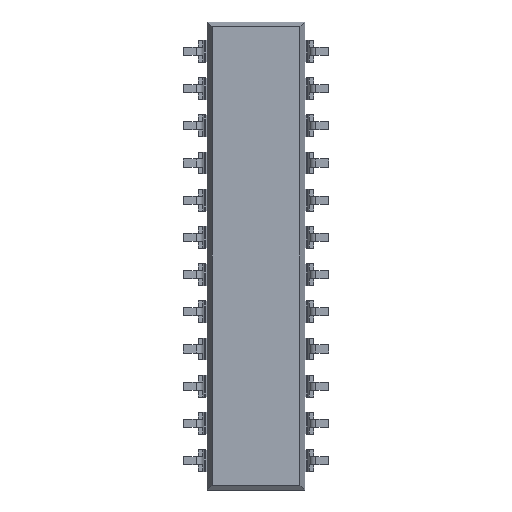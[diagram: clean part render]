
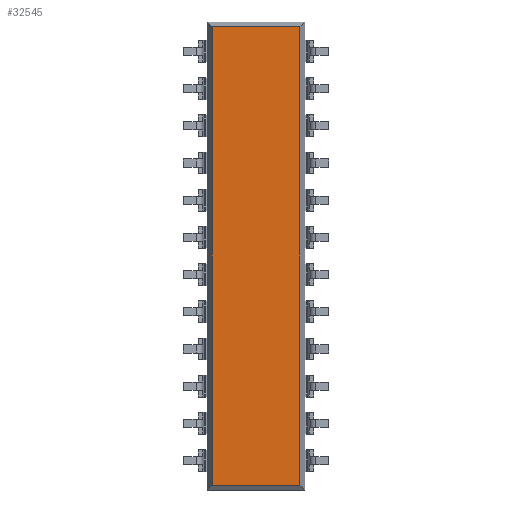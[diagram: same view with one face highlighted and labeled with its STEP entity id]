
A CAD part, front view. The second image highlights one B-rep face of the part: STEP entity #32545.
In plain terms, the highlighted planar face has unit normal (0, -1, 0).
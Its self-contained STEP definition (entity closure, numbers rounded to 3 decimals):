
#92 = LINE ( 'NONE', #15433, #35577 ) ;
#472 = FACE_OUTER_BOUND ( 'NONE', #19128, .T. ) ;
#504 = ORIENTED_EDGE ( 'NONE', *, *, #36430, .T. ) ;
#895 = AXIS2_PLACEMENT_3D ( 'NONE', #31180, #46540, #12022 ) ;
#1173 = EDGE_CURVE ( 'NONE', #20905, #13950, #92, .T. ) ;
#6952 = CARTESIAN_POINT ( 'NONE',  ( -2.997, 0., 31.96 ) ) ;
#10031 = DIRECTION ( 'NONE',  ( 0., 0., -1. ) ) ;
#11311 = VECTOR ( 'NONE', #46361, 1000. ) ;
#12022 = DIRECTION ( 'NONE',  ( 0., 0., 1. ) ) ;
#12588 = CARTESIAN_POINT ( 'NONE',  ( 2.997, 0., 31.632 ) ) ;
#13950 = VERTEX_POINT ( 'NONE', #34458 ) ;
#15346 = EDGE_CURVE ( 'NONE', #27081, #47905, #15638, .T. ) ;
#15433 = CARTESIAN_POINT ( 'NONE',  ( 3.325, 0., 0.328 ) ) ;
#15638 = LINE ( 'NONE', #31007, #11311 ) ;
#15806 = PLANE ( 'NONE',  #895 ) ;
#19128 = EDGE_LOOP ( 'NONE', ( #22478, #48441, #504, #46444 ) ) ;
#20574 = EDGE_CURVE ( 'NONE', #27081, #20905, #29184, .T. ) ;
#20905 = VERTEX_POINT ( 'NONE', #28616 ) ;
#22293 = DIRECTION ( 'NONE',  ( 0., 0., -1. ) ) ;
#22478 = ORIENTED_EDGE ( 'NONE', *, *, #20574, .F. ) ;
#23497 = VECTOR ( 'NONE', #22293, 1000. ) ;
#27081 = VERTEX_POINT ( 'NONE', #12588 ) ;
#28616 = CARTESIAN_POINT ( 'NONE',  ( 2.997, 0., 0.328 ) ) ;
#29184 = LINE ( 'NONE', #44546, #49340 ) ;
#30802 = DIRECTION ( 'NONE',  ( -1., 0., 0. ) ) ;
#31007 = CARTESIAN_POINT ( 'NONE',  ( 3.325, 0., 31.632 ) ) ;
#31180 = CARTESIAN_POINT ( 'NONE',  ( -2.997, 0., 31.96 ) ) ;
#32545 = ADVANCED_FACE ( 'NONE', ( #472 ), #15806, .F. ) ;
#33699 = CARTESIAN_POINT ( 'NONE',  ( -2.997, 0., 31.632 ) ) ;
#34458 = CARTESIAN_POINT ( 'NONE',  ( -2.997, 0., 0.328 ) ) ;
#35577 = VECTOR ( 'NONE', #30802, 1000. ) ;
#36430 = EDGE_CURVE ( 'NONE', #47905, #13950, #41430, .T. ) ;
#41430 = LINE ( 'NONE', #6952, #23497 ) ;
#44546 = CARTESIAN_POINT ( 'NONE',  ( 2.997, 0., 31.96 ) ) ;
#46361 = DIRECTION ( 'NONE',  ( -1., 0., 0. ) ) ;
#46444 = ORIENTED_EDGE ( 'NONE', *, *, #1173, .F. ) ;
#46540 = DIRECTION ( 'NONE',  ( 0., 1., 0. ) ) ;
#47905 = VERTEX_POINT ( 'NONE', #33699 ) ;
#48441 = ORIENTED_EDGE ( 'NONE', *, *, #15346, .T. ) ;
#49340 = VECTOR ( 'NONE', #10031, 1000. ) ;
